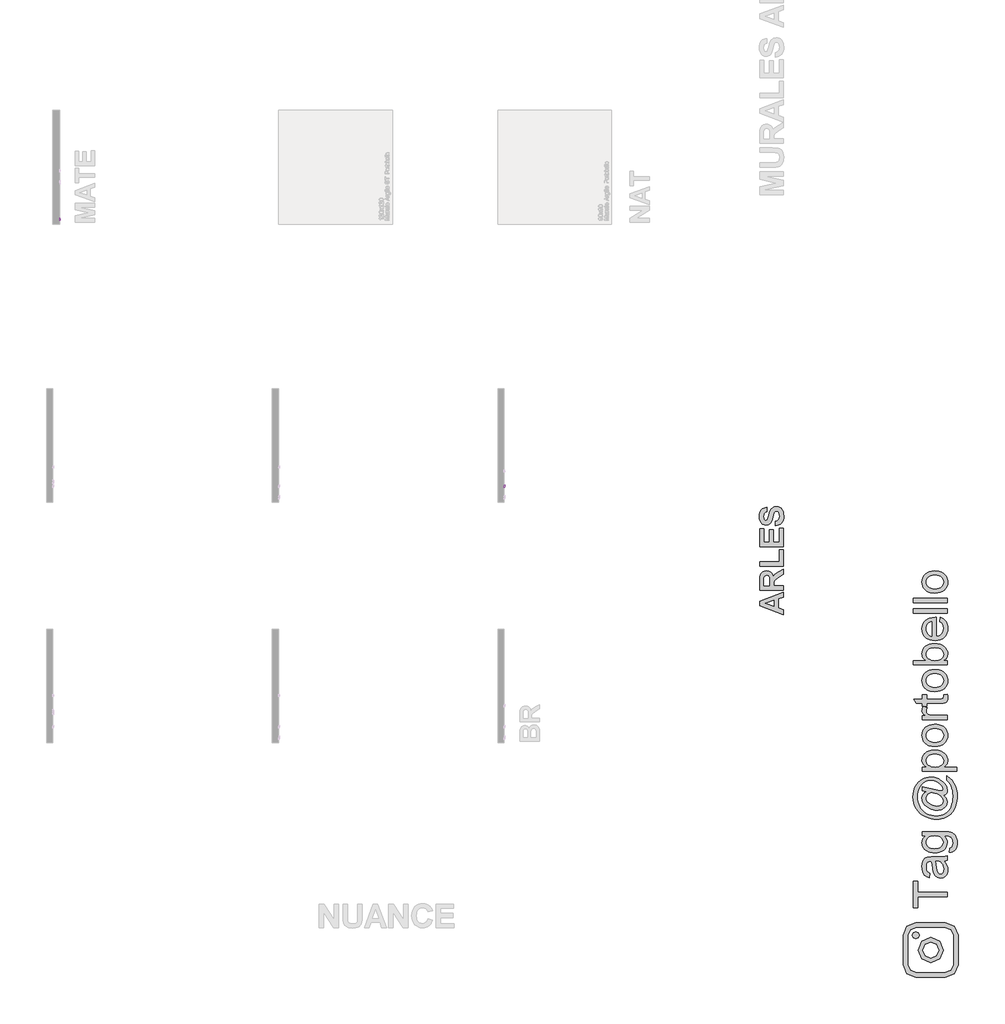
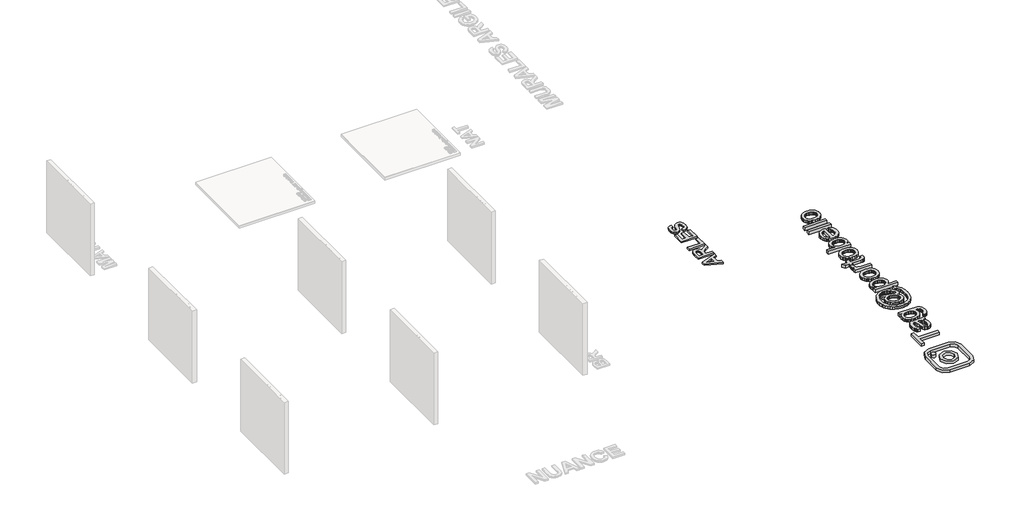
# One storey, part 5 of 21: 6 proxies.
"""IFC4 building model written with IfcOpenShell, lengths in millimetres."""

from ifc_helpers import new_model, si_unit, frame, origin, origin_with_axes, place, context, project, spatial, polyline, outline, extrude, transform, mapped, element, save
from components import generic_models_d67f6705

model = new_model("IFC4")

# Units and contexts
model_context = context("Model", 3, world=origin())
ifc_project = project(units=[si_unit("LENGTHUNIT", "METRE", prefix="MILLI")], contexts=[model_context])

# Site, building, storey
site = spatial("IfcSite", under=ifc_project)
building = spatial("IfcBuilding", under=site)
storey = spatial("IfcBuildingStorey", under=building, Name="PORTOBELLO - SHOWROOM", Elevation=0.0)

# Proxies
placement = place(None, origin())
generic_models_shape = generic_models_d67f6705(model_context)
element("IfcBuildingElementProxy", 1, Name="Blks_Instagram1 : Único", ObjectType="Blks_Instagram1 : Único", at=placement, inside=storey, context=model_context, shape_type="MappedRepresentation", body=[
    mapped(generic_models_shape, transform((35999.5235049, -12631.2406298, 0.0), x_axis=(-1.0, 0.0, 0.0), y_axis=(0.0, -1.0, 0.0), z_axis=(0.0, 0.0, 1.0))),
])
element("IfcBuildingElementProxy", 2, Name="10mm Arial", ObjectType="10mm Arial", at=placement, inside=storey, context=model_context, shape_type="SweptSolid", body=[
    extrude(outline(polyline([(-1892.5977926, 2383.4745677), (-1905.1548314, 2383.4745677), (-1905.1548314, 2461.7598562), (-1917.0496826, 2453.2863076), (-1930.2689089, 2446.9464746), (-1930.2689089, 2458.8168003), (-1911.8625465, 2470.5644987), (-1900.6911965, 2483.9308778), (-1892.5977926, 2483.9308778), (-1892.5977926, 2383.4745677)])), frame((25885.0186832, 0.0, 0.0), z_axis=(1.0, 0.0, 0.0), x_axis=(0.0, 1.0, 0.0)), (0.0, 0.0, 1.0), 20.0),
    extrude(outline(polyline([(-1862.7748256, 2410.158275), (-1850.2177868, 2411.7279049), (-1843.8902165, 2398.7907214), (-1830.769092, 2394.4619766), (-1821.7682458, 2395.9672271), (-1815.0237426, 2400.4829786), (-1810.8114937, 2407.4880649), (-1809.4074108, 2416.4613199), (-1814.6681233, 2431.3728034), (-1821.2746708, 2435.4746877), (-1830.5728883, 2436.8419824), (-1841.5970854, 2434.6592159), (-1848.6481569, 2428.9938332), (-1861.2051957, 2430.563463), (-1850.2177868, 2482.361248), (-1801.5592616, 2482.361248), (-1801.5592616, 2469.8042092), (-1840.0642437, 2469.8042092), (-1845.4598463, 2442.1394832), (-1836.489657, 2447.5841367), (-1827.090272, 2449.3990212), (-1815.3548364, 2447.1488097), (-1805.6059635, 2440.3981751), (-1799.0392699, 2430.1097419), (-1796.850372, 2417.2461348), (-1798.8185407, 2404.6890961), (-1804.7230467, 2393.9469418), (-1816.0292867, 2384.9154388), (-1830.8181429, 2381.9049378), (-1843.1513868, 2383.839384), (-1852.9769018, 2389.6427224), (-1859.712208, 2398.6405029), (-1862.7748256, 2410.158275)])), frame((25885.0186832, 0.0, 0.0), z_axis=(1.0, 0.0, 0.0), x_axis=(0.0, 1.0, 0.0)), (0.0, 0.0, 1.0), 20.0),
    extrude(outline(polyline([(-1779.5844437, 2383.4745677), (-1779.5844437, 2396.0316064), (-1767.027405, 2396.0316064), (-1767.027405, 2383.4745677), (-1769.2837479, 2370.635486), (-1776.445184, 2363.0693797), (-1779.5844437, 2367.7782692), (-1774.973656, 2373.1983973), (-1773.3304498, 2383.4745677), (-1779.5844437, 2383.4745677)])), frame((25885.0186832, 0.0, 0.0), z_axis=(1.0, 0.0, 0.0), x_axis=(0.0, 1.0, 0.0)), (0.0, 0.0, 1.0), 20.0),
    extrude(outline(polyline([(-1746.622217, 2410.158275), (-1734.0651782, 2411.7279049), (-1727.7376079, 2398.7907214), (-1714.6164834, 2394.4619766), (-1705.6156372, 2395.9672271), (-1698.871134, 2400.4829786), (-1694.6588851, 2407.4880649), (-1693.2548022, 2416.4613199), (-1698.5155147, 2431.3728034), (-1705.1220622, 2435.4746877), (-1714.4202796, 2436.8419824), (-1725.4444768, 2434.6592159), (-1732.4955483, 2428.9938332), (-1745.0525871, 2430.563463), (-1734.0651782, 2482.361248), (-1685.406653, 2482.361248), (-1685.406653, 2469.8042092), (-1723.9116351, 2469.8042092), (-1729.3072377, 2442.1394832), (-1720.3370484, 2447.5841367), (-1710.9376634, 2449.3990212), (-1699.2022278, 2447.1488097), (-1689.4533549, 2440.3981751), (-1682.8866613, 2430.1097419), (-1680.6977634, 2417.2461348), (-1682.6659321, 2404.6890961), (-1688.5704381, 2393.9469418), (-1699.8766781, 2384.9154388), (-1714.6655343, 2381.9049378), (-1726.9987782, 2383.839384), (-1736.8242931, 2389.6427224), (-1743.5595993, 2398.6405029), (-1746.622217, 2410.158275)])), frame((25885.0186832, 0.0, 0.0), z_axis=(1.0, 0.0, 0.0), x_axis=(0.0, 1.0, 0.0)), (0.0, 0.0, 1.0), 20.0),
    extrude(outline(polyline([(-1674.419244, 2383.4745677), (-1647.5883839, 2420.5815982), (-1672.8496142, 2457.2471704), (-1657.7909779, 2457.2471704), (-1645.6018211, 2439.5643092), (-1639.8873874, 2431.2501761), (-1634.9332432, 2438.0682557), (-1621.0518293, 2457.2471704), (-1605.944142, 2457.2471704), (-1632.4806966, 2420.5570728), (-1606.9251607, 2383.4745677), (-1622.0083225, 2383.4745677), (-1637.4103153, 2405.792742), (-1640.2062185, 2409.8884949), (-1659.3115568, 2383.4745677), (-1674.419244, 2383.4745677)])), frame((25885.0186832, 0.0, 0.0), z_axis=(1.0, 0.0, 0.0), x_axis=(0.0, 1.0, 0.0)), (0.0, 0.0, 1.0), 20.0),
    extrude(outline(polyline([(-1551.988116, 2383.4745677), (-1564.5451548, 2383.4745677), (-1564.5451548, 2461.7598562), (-1576.440006, 2453.2863076), (-1589.6592323, 2446.9464746), (-1589.6592323, 2458.8168003), (-1571.2528699, 2470.5644987), (-1560.0815199, 2483.9308778), (-1551.988116, 2483.9308778), (-1551.988116, 2383.4745677)])), frame((25885.0186832, 0.0, 0.0), z_axis=(1.0, 0.0, 0.0), x_axis=(0.0, 1.0, 0.0)), (0.0, 0.0, 1.0), 20.0),
    extrude(outline(polyline([(-1522.165149, 2410.158275), (-1509.6081102, 2411.7279049), (-1503.2805399, 2398.7907214), (-1490.1594154, 2394.4619766), (-1481.1585692, 2395.9672271), (-1474.414066, 2400.4829786), (-1470.2018171, 2407.4880649), (-1468.7977342, 2416.4613199), (-1474.0584467, 2431.3728034), (-1480.6649942, 2435.4746877), (-1489.9632117, 2436.8419824), (-1500.9874088, 2434.6592159), (-1508.0384803, 2428.9938332), (-1520.5955191, 2430.563463), (-1509.6081102, 2482.361248), (-1460.949585, 2482.361248), (-1460.949585, 2469.8042092), (-1499.4545671, 2469.8042092), (-1504.8501697, 2442.1394832), (-1495.8799804, 2447.5841367), (-1486.4805954, 2449.3990212), (-1474.7451598, 2447.1488097), (-1464.9962869, 2440.3981751), (-1458.4295933, 2430.1097419), (-1456.2406954, 2417.2461348), (-1458.2088641, 2404.6890961), (-1464.1133701, 2393.9469418), (-1475.4196101, 2384.9154388), (-1490.2084663, 2381.9049378), (-1502.5417102, 2383.839384), (-1512.3672252, 2389.6427224), (-1519.1025314, 2398.6405029), (-1522.165149, 2410.158275)])), frame((25885.0186832, 0.0, 0.0), z_axis=(1.0, 0.0, 0.0), x_axis=(0.0, 1.0, 0.0)), (0.0, 0.0, 1.0), 20.0),
    extrude(outline(polyline([(-1438.9747671, 2383.4745677), (-1438.9747671, 2396.0316064), (-1426.4177284, 2396.0316064), (-1426.4177284, 2383.4745677), (-1428.6740713, 2370.635486), (-1435.8355074, 2363.0693797), (-1438.9747671, 2367.7782692), (-1434.3639794, 2373.1983973), (-1432.7207732, 2383.4745677), (-1438.9747671, 2383.4745677)])), frame((25885.0186832, 0.0, 0.0), z_axis=(1.0, 0.0, 0.0), x_axis=(0.0, 1.0, 0.0)), (0.0, 0.0, 1.0), 20.0),
    extrude(outline(polyline([(-1406.0125404, 2410.158275), (-1393.4555016, 2411.7279049), (-1387.1279313, 2398.7907214), (-1374.0068068, 2394.4619766), (-1365.0059606, 2395.9672271), (-1358.2614574, 2400.4829786), (-1354.0492085, 2407.4880649), (-1352.6451256, 2416.4613199), (-1357.9058381, 2431.3728034), (-1364.5123856, 2435.4746877), (-1373.810603, 2436.8419824), (-1384.8348002, 2434.6592159), (-1391.8858717, 2428.9938332), (-1404.4429105, 2430.563463), (-1393.4555016, 2482.361248), (-1344.7969764, 2482.361248), (-1344.7969764, 2469.8042092), (-1383.3019585, 2469.8042092), (-1388.6975611, 2442.1394832), (-1379.7273718, 2447.5841367), (-1370.3279868, 2449.3990212), (-1358.5925512, 2447.1488097), (-1348.8436783, 2440.3981751), (-1342.2769847, 2430.1097419), (-1340.0880868, 2417.2461348), (-1342.0562555, 2404.6890961), (-1347.9607615, 2393.9469418), (-1359.2670015, 2384.9154388), (-1374.0558577, 2381.9049378), (-1386.3891016, 2383.839384), (-1396.2146165, 2389.6427224), (-1402.9499227, 2398.6405029), (-1406.0125404, 2410.158275)])), frame((25885.0186832, 0.0, 0.0), z_axis=(1.0, 0.0, 0.0), x_axis=(0.0, 1.0, 0.0)), (0.0, 0.0, 1.0), 20.0),
])
element("IfcBuildingElementProxy", 3, Name="10mm Arial", ObjectType="10mm Arial", at=placement, inside=storey, context=model_context, shape_type="SweptSolid", body=[
    extrude(outline(polyline([(4701.123688, 2383.4745677), (4701.123688, 2407.0190154), (4655.6044224, 2407.0190154), (4655.6044224, 2419.5760541), (4704.2629477, 2482.361248), (4713.6807267, 2482.361248), (4713.6807267, 2419.5760541), (4726.2377655, 2419.5760541), (4726.2377655, 2407.0190154), (4713.6807267, 2407.0190154), (4713.6807267, 2383.4745677), (4701.123688, 2383.4745677)]), holes=[polyline([(4701.123688, 2419.5760541), (4701.123688, 2458.3753419), (4671.0554662, 2419.5760541), (4701.123688, 2419.5760541)])]), frame((15340.268651, 0.0, 0.0), z_axis=(1.0, 0.0, 0.0), x_axis=(0.0, 1.0, 0.0)), (0.0, 0.0, 1.0), 20.0),
    extrude(outline(polyline([(4737.2251744, 2410.158275), (4749.7822132, 2411.7279049), (4756.1097835, 2398.7907214), (4769.230908, 2394.4619766), (4778.2317542, 2395.9672271), (4784.9762574, 2400.4829786), (4789.1885063, 2407.4880649), (4790.5925892, 2416.4613199), (4785.3318767, 2431.3728034), (4778.7253292, 2435.4746877), (4769.4271117, 2436.8419824), (4758.4029146, 2434.6592159), (4751.3518431, 2428.9938332), (4738.7948043, 2430.563463), (4749.7822132, 2482.361248), (4798.4407384, 2482.361248), (4798.4407384, 2469.8042092), (4759.9357563, 2469.8042092), (4754.5401537, 2442.1394832), (4763.510343, 2447.5841367), (4772.909728, 2449.3990212), (4784.6451636, 2447.1488097), (4794.3940365, 2440.3981751), (4800.9607301, 2430.1097419), (4803.149628, 2417.2461348), (4801.1814593, 2404.6890961), (4795.2769533, 2393.9469418), (4783.9707133, 2384.9154388), (4769.1818571, 2381.9049378), (4756.8486132, 2383.839384), (4747.0230982, 2389.6427224), (4740.287792, 2398.6405029), (4737.2251744, 2410.158275)])), frame((15340.268651, 0.0, 0.0), z_axis=(1.0, 0.0, 0.0), x_axis=(0.0, 1.0, 0.0)), (0.0, 0.0, 1.0), 20.0),
    extrude(outline(polyline([(4809.4281474, 2383.4745677), (4836.2590075, 2420.5815982), (4810.9977772, 2457.2471704), (4826.0564135, 2457.2471704), (4838.2455703, 2439.5643092), (4843.960004, 2431.2501761), (4848.9141482, 2438.0682557), (4862.7955621, 2457.2471704), (4877.9032494, 2457.2471704), (4851.3666948, 2420.5570728), (4876.9222307, 2383.4745677), (4861.8390689, 2383.4745677), (4846.4370761, 2405.792742), (4843.6411729, 2409.8884949), (4824.5358346, 2383.4745677), (4809.4281474, 2383.4745677)])), frame((15340.268651, 0.0, 0.0), z_axis=(1.0, 0.0, 0.0), x_axis=(0.0, 1.0, 0.0)), (0.0, 0.0, 1.0), 20.0),
    extrude(outline(polyline([(4931.8592754, 2383.4745677), (4919.3022366, 2383.4745677), (4919.3022366, 2461.7598562), (4907.4073854, 2453.2863076), (4894.188159, 2446.9464746), (4894.188159, 2458.8168003), (4912.5945215, 2470.5644987), (4923.7658715, 2483.9308778), (4931.8592754, 2483.9308778), (4931.8592754, 2383.4745677)])), frame((15340.268651, 0.0, 0.0), z_axis=(1.0, 0.0, 0.0), x_axis=(0.0, 1.0, 0.0)), (0.0, 0.0, 1.0), 20.0),
    extrude(outline(polyline([(5026.0370661, 2396.0316064), (5026.0370661, 2383.4745677), (4960.1126126, 2383.4745677), (4961.4615132, 2392.1320573), (4969.101196, 2405.4616482), (4984.8342827, 2420.0175125), (5006.5025322, 2440.9377353), (5011.9103975, 2455.1625058), (5006.7968378, 2466.6772122), (4993.4427213, 2471.373839), (4979.5245192, 2466.7875768), (4974.2392812, 2454.1079107), (4961.6822424, 2455.6775406), (4964.7264659, 2467.8237778), (4971.308488, 2476.6958652), (4981.084952, 2482.1221247), (4993.7125015, 2483.9308778), (5006.4320215, 2481.9197896), (5016.1900914, 2475.8865249), (5022.3981, 2466.873416), (5024.4674363, 2455.9227952), (5022.2356188, 2444.0156813), (5014.8166653, 2431.7038972), (4996.8272357, 2414.4992826), (4982.381736, 2402.4204904), (4976.7163533, 2396.0316064), (5026.0370661, 2396.0316064)])), frame((15340.268651, 0.0, 0.0), z_axis=(1.0, 0.0, 0.0), x_axis=(0.0, 1.0, 0.0)), (0.0, 0.0, 1.0), 20.0),
    extrude(outline(polyline([(5038.5941049, 2432.8933823), (5042.2851876, 2461.7966444), (5053.248071, 2478.4616988), (5071.5563317, 2483.9308778), (5086.2225605, 2480.6935163), (5096.3515781, 2471.3615763), (5102.2376901, 2456.4991437), (5104.5185584, 2432.8933823), (5100.8642639, 2404.1127476), (5089.9381687, 2387.410905), (5081.706809, 2383.2814296), (5071.5563317, 2381.9049378), (5058.5087836, 2384.2961708), (5048.6004952, 2391.4698697), (5041.0957025, 2408.4598865), (5038.5941049, 2432.8933823)]), holes=[polyline([(5051.1511437, 2432.9179078), (5052.6226716, 2413.1657104), (5057.0372556, 2401.7337774), (5063.6100806, 2396.2799268), (5071.5563317, 2394.4619766), (5079.5025827, 2396.2860581), (5086.0754077, 2401.7583028), (5090.4899917, 2413.1963672), (5091.9615197, 2432.9179078), (5090.5390426, 2452.2255812), (5086.2716115, 2463.746419), (5079.7110492, 2469.466984), (5071.4091789, 2471.373839), (5063.5487669, 2469.6938446), (5057.2334593, 2464.6538613), (5052.6717226, 2452.4156536), (5051.1511437, 2432.9179078)])]), frame((15340.268651, 0.0, 0.0), z_axis=(1.0, 0.0, 0.0), x_axis=(0.0, 1.0, 0.0)), (0.0, 0.0, 1.0), 20.0),
])
element("IfcBuildingElementProxy", 4, Name="550mm Arial", ObjectType="550mm Arial", at=placement, inside=storey, context=model_context, shape_type="SweptSolid", body=[
    extrude(outline(polyline([(32506.24187, -4154.5336122), (32506.24187, -4266.8456495), (32381.5434989, -4310.8240929), (32381.5434989, -4522.644317), (32506.24187, -4566.0660713), (32506.24187, -4680.0481761), (31945.0992, -4475.464911), (31945.0992, -4361.3436339), (32506.24187, -4154.5336122)]), holes=[polyline([(32283.5662073, -4345.0604761), (32078.7045976, -4417.2908941), (32283.5662073, -4488.5471062), (32283.5662073, -4345.0604761)])]), origin_with_axes(), (0.0, 0.0, 1.0), 50.0),
    extrude(outline(polyline([(32506.24187, -4101.0914531), (31945.0992, -4101.0914531), (31945.0992, -3865.0552507), (31948.8916449, -3788.1625609), (31960.2689795, -3735.6250217), (31969.3325748, -3716.4540389), (31981.3535813, -3699.3010543), (31996.3319989, -3684.1660678), (32014.2678277, -3671.0490796), (32034.3869218, -3660.454589), (32055.9151352, -3652.8870958), (32078.8524682, -3648.3465999), (32103.1989205, -3646.8331012), (32133.5471778, -3649.0207157), (32161.1293859, -3655.5835589), (32185.9455447, -3666.521631), (32207.9956542, -3681.834932), (32226.7491202, -3701.5060652), (32241.6753482, -3725.5176342), (32252.7743383, -3753.869639), (32260.0460904, -3786.5620796), (32282.3832428, -3755.5614522), (32306.8079796, -3730.475647), (32342.1925341, -3704.5200151), (32397.4091398, -3670.9099073), (32506.24187, -3602.2979687), (32506.24187, -3727.1355121), (32378.0641916, -3808.412129), (32302.0065356, -3872.2226236), (32288.8025647, -3889.9322974), (32280.5044169, -3908.6857633), (32276.1204898, -3933.5802066), (32274.6591808, -3969.7128121), (32274.6591808, -3994.207135), (32506.24187, -3994.207135), (32506.24187, -4101.0914531)]), holes=[polyline([(32176.6818892, -3994.207135), (32176.6818892, -3906.111076), (32175.0640113, -3836.577121), (32170.2103777, -3799.1571717), (32161.4077304, -3780.1253612), (32147.9428115, -3765.7558223), (32130.1809481, -3756.7270201), (32108.4874675, -3753.7174193), (32084.4628511, -3757.6838296), (32065.5528163, -3769.5830603), (32052.209673, -3788.7192501), (32044.8857313, -3814.3965374), (32043.0764916, -3901.2400459), (32043.0764916, -3994.207135), (32176.6818892, -3994.207135)])]), origin_with_axes(), (0.0, 0.0, 1.0), 50.0),
    extrude(outline(polyline([(32506.24187, -3539.9487831), (31945.0992, -3539.9487831), (31945.0992, -3433.0644651), (32408.2645784, -3433.0644651), (32408.2645784, -3148.0396168), (32506.24187, -3148.0396168), (32506.24187, -3539.9487831)])), origin_with_axes(), (0.0, 0.0, 1.0), 50.0),
    extrude(outline(polyline([(32506.24187, -3067.8763782), (31945.0992, -3067.8763782), (31945.0992, -2649.2461324), (32043.0764916, -2649.2461324), (32043.0764916, -2960.9920602), (32167.7748627, -2960.9920602), (32167.7748627, -2667.0601854), (32265.7521543, -2667.0601854), (32265.7521543, -2960.9920602), (32408.2645784, -2960.9920602), (32408.2645784, -2640.3391059), (32506.24187, -2640.3391059), (32506.24187, -3067.8763782)])), origin_with_axes(), (0.0, 0.0, 1.0), 50.0),
    extrude(outline(polyline([(32319.1943133, -2577.9899203), (32310.2872868, -2471.1056022), (32336.0167638, -2464.6340908), (32358.0929681, -2455.5183058), (32376.5158999, -2443.7582474), (32391.2855591, -2429.3539155), (32402.6107041, -2412.2618187), (32410.7000934, -2392.4384658), (32415.553727, -2369.8838567), (32417.1716049, -2344.5979914), (32415.7407398, -2318.0247824), (32411.4481445, -2294.9482772), (32404.293819, -2275.3684758), (32394.2777633, -2259.2853781), (32382.3480887, -2246.7424755), (32369.4529062, -2237.7832594), (32355.5922161, -2232.4077298), (32340.7660181, -2230.6158865), (32322.5866379, -2233.5906942), (32307.2950826, -2242.5151173), (32294.3694562, -2258.8852578), (32283.2878627, -2284.1972179), (32259.4894012, -2376.8859625), (32247.8772134, -2419.9075964), (32234.8906991, -2456.0054089), (32220.5298585, -2485.1794), (32204.7946916, -2507.4295697), (32180.4308427, -2530.5060749), (32153.5444961, -2546.9892929), (32124.1356517, -2556.8792237), (32092.2043096, -2560.1758673), (32050.8701398, -2554.1218727), (32012.3194157, -2535.959889), (31994.8445951, -2522.5123666), (31979.5791346, -2506.3857775), (31966.5230343, -2487.580122), (31955.676294, -2466.0953998), (31941.0632036, -2415.7498242), (31936.1921735, -2356.0101191), (31939.227869, -2306.590909), (31948.3349557, -2263.6867017), (31963.5134335, -2227.2974973), (31984.7633024, -2197.4232956), (32011.0755633, -2173.9684157), (32041.4412172, -2156.8371767), (32075.8602639, -2146.0295786), (32114.3327036, -2141.5456215), (32114.3327036, -2248.4299395), (32077.6086158, -2260.2421876), (32063.7479256, -2269.3710199), (32052.888138, -2280.6483245), (32044.6987186, -2294.5438077), (32038.8491333, -2311.5271762), (32034.1694651, -2354.7575685), (32039.1448744, -2400.266907), (32045.3641361, -2418.8464076), (32054.0711024, -2434.6424625), (32069.0321235, -2448.6292775), (32088.3074856, -2453.2915492), (32106.5042624, -2449.0467944), (32121.8480072, -2436.3125299), (32130.7593829, -2421.6776939), (32139.8186291, -2399.3448906), (32158.3807332, -2331.5853823), (32177.6908883, -2259.2679816), (32197.9056633, -2208.6266648), (32222.3825896, -2173.1377311), (32254.4791988, -2146.2774793), (32273.4849146, -2136.4136433), (32294.5956112, -2129.3680462), (32343.131947, -2123.7315684), (32366.686857, -2125.3972868), (32389.4763193, -2130.3944418), (32411.5003341, -2138.7230335), (32432.7589013, -2150.3830618), (32452.2952114, -2165.0918331), (32469.1524549, -2182.5666537), (32483.3306319, -2202.8075235), (32494.8297422, -2225.8144426), (32503.7193722, -2251.7048375), (32510.0691079, -2280.5961349), (32515.1488965, -2347.3814372), (32512.0218691, -2397.3268924), (32502.640787, -2441.1139739), (32487.0056501, -2478.7426816), (32465.1164585, -2510.2130155), (32437.2341602, -2535.7424323), (32403.6197032, -2555.5483887), (32364.2730876, -2569.6308847), (32319.1943133, -2577.9899203)])), origin_with_axes(), (0.0, 0.0, 1.0), 50.0),
])
element("IfcBuildingElementProxy", 5, Name="80mm Arial", ObjectType="80mm Arial", at=placement, inside=storey, context=model_context, shape_type="SweptSolid", body=[
    extrude(outline(polyline([(36391.2364896, -11363.1133966), (35691.7713786, -11363.1133966), (35691.7713786, -11625.4128133), (35591.8477913, -11625.4128133), (35591.8477913, -11000.8903927), (35691.7713786, -11000.8903927), (35691.7713786, -11263.1898093), (36391.2364896, -11263.1898093), (36391.2364896, -11363.1133966)])), origin_with_axes(), (0.0, 0.0, 1.0), 100.0),
    extrude(outline(polyline([(36316.2937991, -10526.2533531), (36357.2292922, -10573.9951647), (36372.3910377, -10598.3966706), (36384.0154491, -10623.1519099), (36398.7990658, -10674.8457774), (36403.726938, -10730.198956), (36400.7628961, -10774.6900796), (36391.8707702, -10813.7044344), (36377.0505604, -10847.2420202), (36356.3022667, -10875.3028372), (36330.9432411, -10897.4599656), (36302.2908355, -10913.286486), (36270.3450499, -10922.7823982), (36235.1058845, -10925.9477022), (36193.6824833, -10921.1662025), (36156.0647656, -10906.8217031), (36123.8628283, -10884.6950689), (36098.6867682, -10856.5671646), (36079.6583507, -10823.511388), (36065.8993411, -10786.6011371), (36050.8717704, -10700.1438145), (36035.0635466, -10597.9758498), (36016.5230373, -10526.8388428), (35994.274426, -10526.2533531), (35970.0497868, -10527.9732293), (35949.6796219, -10533.1328579), (35933.1639313, -10541.7322388), (35920.5027151, -10553.7713722), (35907.8658942, -10574.5806544), (35898.8395936, -10599.9274824), (35893.4238133, -10629.811856), (35891.6185531, -10664.2337754), (35896.4244483, -10723.7585686), (35902.4318173, -10746.7878328), (35910.8421339, -10765.3283422), (35922.3140741, -10780.5632739), (35937.5063138, -10793.6758052), (35956.4188531, -10804.6659361), (35979.051692, -10813.5336665), (35966.5612436, -10913.4572538), (35911.9155318, -10896.1121194), (35888.9838492, -10884.237655), (35868.9796154, -10870.2285925), (35851.5003062, -10853.4811456), (35836.1433975, -10833.3915279), (35822.9088892, -10809.9597394), (35811.7967813, -10783.1857802), (35796.7204197, -10721.7825406), (35791.6949658, -10651.3530004), (35796.1349299, -10583.8021183), (35809.4548222, -10530.2541998), (35829.4834514, -10489.8798011), (35854.0496263, -10461.8494784), (35884.4219081, -10443.2601783), (35921.8688579, -10431.2088472), (35956.4127543, -10427.5495361), (36009.3019968, -10426.3297658), (36133.6209911, -10426.3297658), (36241.912203, -10425.0612046), (36307.2187077, -10421.2555211), (36350.1302287, -10413.7417357), (36391.2364896, -10401.3488689), (36391.2364896, -10501.2724562), (36356.49743, -10517.2758433), (36316.2937991, -10526.2533531)]), holes=[polyline([(36116.4466245, -10526.2533531), (36133.0842922, -10593.3895133), (36147.0872558, -10687.4582029), (36154.7474136, -10739.2984429), (36163.2858061, -10773.4276173), (36174.3613209, -10795.7982056), (36189.6328457, -10812.362687), (36207.929401, -10822.608758), (36228.0800072, -10826.0241149), (36243.6076838, -10824.1639652), (36257.793613, -10818.5835158), (36270.6377948, -10809.2827669), (36282.1402293, -10796.2617183), (36291.6178449, -10779.6423473), (36298.3875704, -10759.5466307), (36303.8033507, -10708.9261611), (36297.826476, -10655.2562656), (36290.3553826, -10630.7632769), (36279.8958518, -10607.8315943), (36253.475626, -10569.3844327), (36222.0299463, -10542.6470666), (36189.6328457, -10530.7908988), (36144.7452967, -10526.8388428), (36116.4466245, -10526.2533531)])]), origin_with_axes(), (0.0, 0.0, 1.0), 100.0),
    extrude(outline(polyline([(36441.1982832, -10313.9157301), (36453.6887317, -10213.9921428), (36470.5215625, -10209.7717374), (36484.9148527, -10202.9654188), (36496.8686021, -10193.5731871), (36506.3828109, -10181.5950422), (36516.1165783, -10162.2128913), (36523.0692693, -10139.5861513), (36528.6314221, -10084.5989038), (36527.0579184, -10053.3971781), (36522.3374071, -10025.9523452), (36514.4698883, -10002.264405), (36503.455362, -9982.3333574), (36489.5987708, -9965.7444806), (36473.2050573, -9952.0830526), (36454.2742214, -9941.3490735), (36432.8062632, -9933.5425433), (36389.821556, -9928.1267629), (36316.2937991, -9926.7118293), (36349.0812262, -9959.9627691), (36372.500817, -9997.0681832), (36386.5525714, -10038.0280717), (36391.2364896, -10082.8424345), (36385.7841161, -10137.6284198), (36369.4269957, -10185.8642384), (36357.1591554, -10207.5258352), (36342.1651283, -10227.5498902), (36303.998514, -10262.6853753), (36258.2083349, -10290.5632267), (36208.0757734, -10310.4759777), (36153.6008295, -10322.4236283), (36094.7835031, -10326.4061785), (36053.6345502, -10324.6192149), (36014.107892, -10319.2583242), (35976.2035282, -10310.3235064), (35939.9214591, -10297.8147614), (35906.4692572, -10281.9211537), (35877.0544951, -10262.8317477), (35851.6771729, -10240.5465434), (35830.3372906, -10215.0655407), (35813.4312735, -10186.7973628), (35801.355547, -10156.1506326), (35794.1101111, -10123.1253503), (35791.6949658, -10087.7215159), (35797.159537, -10040.9921136), (35813.5532506, -9998.5806985), (35840.8761065, -9960.4872704), (35879.1281047, -9926.7118293), (35804.1854143, -9926.7118293), (35804.1854143, -9826.788242), (36311.0243912, -9826.788242), (36374.5317346, -9828.4959205), (36428.0491588, -9833.618956), (36471.5766639, -9842.1573485), (36505.1142497, -9854.1110979), (36532.1626573, -9869.7668504), (36556.2226275, -9889.4112519), (36577.2941603, -9913.0443025), (36595.3772558, -9940.6660021), (36609.892523, -9971.9958036), (36620.260571, -10006.7531598), (36626.4813998, -10044.9380707), (36628.5550094, -10086.5505363), (36625.6336594, -10135.5060194), (36616.8696094, -10179.5214326), (36602.2628595, -10218.5967759), (36581.8134095, -10252.7320492), (36555.4968641, -10280.304958), (36523.288828, -10299.6932078), (36485.189301, -10310.8967984), (36441.1982832, -10313.9157301)]), holes=[polyline([(36087.9527891, -10226.4825912), (36137.3595872, -10223.817393), (36179.6063334, -10215.8217983), (36214.6930276, -10202.4958072), (36242.6196698, -10183.8394197), (36263.922959, -10161.1577899), (36279.1395942, -10135.7560724), (36288.2695753, -10107.6342669), (36291.3129023, -10076.7923735), (36288.2878718, -10046.2554227), (36279.2127804, -10018.267792), (36264.087628, -9992.8294813), (36242.9124147, -9969.9404906), (36215.2602208, -9951.0279513), (36180.7041267, -9937.5189946), (36139.2441324, -9929.4136206), (36090.880238, -9926.7118293), (36044.5350634, -9929.4929057), (36004.2521475, -9937.8361349), (35970.0314903, -9951.7415169), (35941.8730917, -9971.2090518), (35919.8867311, -9994.5920494), (35904.1821878, -10020.24382), (35894.7594618, -10048.1643633), (35891.6185531, -10078.3536796), (35894.710671, -10108.0367911), (35903.9870245, -10135.4145367), (35919.4476137, -10160.4869163), (35941.0924386, -10183.2539299), (35968.8239176, -10202.1664692), (36002.544469, -10215.6754259), (36042.2540928, -10223.7807999), (36087.9527891, -10226.4825912)])]), origin_with_axes(), (0.0, 0.0, 1.0), 100.0),
])
element("IfcBuildingElementProxy", 6, Name="80mm Arial", ObjectType="80mm Arial", at=placement, inside=storey, context=model_context, shape_type="SweptSolid", body=[
    extrude(outline(polyline([(36299.7049223, -8955.7052888), (36337.0054997, -8992.9570753), (36366.1580111, -9034.4536627), (36384.96687, -9078.1458368), (36391.2364896, -9121.9843833), (36389.4434272, -9145.9162776), (36384.0642399, -9169.5066362), (36375.0989278, -9192.7554591), (36362.5474909, -9215.6627463), (36346.2757544, -9237.3319667), (36326.1495436, -9256.8665889), (36302.1688584, -9274.2666129), (36274.333699, -9289.5320389), (36243.8394402, -9301.9553999), (36211.8814569, -9310.8292293), (36178.4597493, -9316.1535268), (36143.5743172, -9317.9282927), (36099.7357707, -9315.1777106), (36055.8484334, -9306.9259641), (36011.9123053, -9293.1730534), (35967.9273864, -9273.9189784), (35926.6625554, -9250.5725738), (35890.8866909, -9224.5426745), (35860.5997931, -9195.8292804), (35835.8018618, -9164.4323915), (35816.5050948, -9131.9316105), (35802.7216898, -9099.9065399), (35794.4516468, -9068.3571797), (35791.6949658, -9037.28353), (35793.2623707, -9014.120091), (35797.9645855, -8991.4689555), (35816.7734443, -8947.7035953), (35830.9532746, -8927.0772786), (35848.4142872, -8907.9390818), (35893.1798592, -8874.1270476), (35804.1854143, -8855.7817015), (35804.1854143, -8755.8581142), (36170.7020098, -8838.6073349), (36255.2076999, -8855.7817015), (36268.9911049, -8852.9762297), (36280.6765048, -8844.5598142), (36288.6538029, -8832.1913429), (36291.3129023, -8817.5297032), (36289.3368743, -8801.8556542), (36283.4087904, -8783.9128323), (36259.6964548, -8741.22087), (36237.3319653, -8711.6231423), (36211.4179442, -8685.2822016), (36181.9543913, -8662.1980477), (36148.9413067, -8642.3706806), (36113.879008, -8626.4465786), (36078.2678125, -8615.0722201), (36042.1077204, -8608.247605), (36005.3987316, -8605.9727332), (35962.9751188, -8608.9001821), (35921.9664395, -8617.6825286), (35882.3726939, -8632.3197729), (35844.1938818, -8652.8119148), (35808.5948841, -8679.1162624), (35776.7405813, -8711.1901239), (35748.6309735, -8749.0334991), (35724.2660607, -8792.646388), (35704.5850661, -8840.3577054), (35690.5272128, -8890.4963657), (35682.0925008, -8943.0623691), (35679.2809301, -8998.0557154), (35682.8487584, -9060.7885047), (35693.5522433, -9120.7646129), (35711.3913847, -9177.9840401), (35736.3661826, -9232.4467864), (35768.0009267, -9282.5427548), (35805.8199065, -9326.6618484), (35849.823122, -9364.8040674), (35900.0105732, -9396.9694116), (35954.241563, -9422.499205), (36010.3753947, -9440.7347718), (36068.4120681, -9451.6761119), (36128.3515832, -9455.3232252), (36190.0414688, -9451.712705), (36247.2791926, -9440.8811443), (36300.0647546, -9422.828543), (36348.3981548, -9397.5549013), (36391.4926414, -9365.4444468), (36428.5614624, -9326.8814071), (36459.6046179, -9281.8657822), (36484.6221078, -9230.3975722), (36503.8761828, -9174.2332463), (36517.6290935, -9115.1292739), (36525.88084, -9053.0856549), (36528.6314221, -8988.1023893), (36525.8991365, -8919.8562381), (36517.7022798, -8857.3917983), (36504.0408518, -8800.7090701), (36484.9148527, -8749.8080532), (36461.8855884, -8704.8107249), (36436.5143651, -8665.8390622), (36408.8011827, -8632.8930649), (36378.7460412, -8605.9727332), (36378.7460412, -8506.049146), (36408.0571228, -8522.2781905), (36437.6365538, -8543.447305), (36467.4843343, -8569.5564894), (36497.6004644, -8600.6057437), (36526.2711665, -8635.7168333), (36551.7826634, -8674.0115235), (36574.1349551, -8715.4898144), (36593.3280416, -8760.1517058), (36608.73984, -8808.7717521), (36619.7482675, -8862.1245073), (36626.3533239, -8920.2099715), (36628.5550094, -8983.0281447), (36626.6094757, -9041.8759653), (36620.7728746, -9098.3940246), (36611.045206, -9152.5823225), (36597.42647, -9204.4408591), (36579.9105678, -9253.2621675), (36558.4914004, -9298.3387808), (36533.1689678, -9339.6706992), (36503.9432702, -9377.2579227), (36471.5766639, -9410.7650143), (36436.8315054, -9439.8565372), (36399.7077947, -9464.5324914), (36360.2055318, -9484.792877), (36307.657825, -9504.6873314), (36253.060904, -9518.897656), (36196.4147689, -9527.4238508), (36137.7194195, -9530.2659157), (36071.9615998, -9526.8749541), (36007.7894815, -9516.7020694), (35945.2030647, -9499.7472615), (35884.2023494, -9476.0105304), (35814.6571427, -9439.5515946), (35753.7601079, -9396.1399677), (35701.5112448, -9345.7756499), (35657.9105536, -9288.458641), (35623.5435239, -9224.4328952), (35598.9956455, -9153.9423665), (35584.2669185, -9076.9870549), (35579.3573428, -8993.5669605), (35582.7970952, -8928.1384788), (35593.1163524, -8866.1253541), (35610.3151144, -8807.5275863), (35634.3933812, -8752.3451756), (35665.2901642, -8701.6881128), (35702.944475, -8656.6663891), (35747.3563135, -8617.2800044), (35798.5256798, -8583.5289588), (35846.4016662, -8560.560683), (35896.3512621, -8544.1547718), (35948.3744676, -8534.311225), (36002.4712828, -8531.0300428), (36041.2020409, -8532.7316224), (36078.8411046, -8537.8363613), (36115.3884738, -8546.3442596), (36150.8441485, -8558.2553171), (36185.2081288, -8573.5695338), (36218.4804145, -8592.2869099), (36250.6610059, -8614.4074452), (36281.7499027, -8639.9311399), (36329.6502845, -8689.7465611), (36363.8648429, -8741.8063597), (36375.8399383, -8768.6779006), (36384.3935779, -8796.1105358), (36389.5257617, -8824.1042654), (36391.2364896, -8852.6590894), (36388.3578316, -8885.9832154), (36379.7218575, -8912.1838826), (36365.7676846, -8931.8465807), (36346.9344304, -8945.5567994), (36328.1987578, -8951.6068604), (36299.7049223, -8955.7052888)]), holes=[polyline([(36145.1356232, -9218.0047054), (36177.8498641, -9215.8152176), (36206.7096306, -9209.2467543), (36231.7149229, -9198.2993154), (36252.8657408, -9182.9729009), (36269.686374, -9164.8166192), (36281.7011119, -9145.3795786), (36288.9099547, -9124.6617792), (36291.3129023, -9102.6632209), (36287.0681015, -9071.6078677), (36274.333699, -9038.9424176), (36253.2560673, -9006.2281768), (36223.9815788, -8975.0264512), (36186.1199071, -8947.3376642), (36139.2807255, -8925.1622391), (36087.8552075, -8910.5981811), (36036.2345262, -8905.7434951), (36003.8069313, -8908.0183668), (35975.2216131, -8914.842982), (35950.4785715, -8926.2173405), (35929.5778065, -8942.1414425), (35912.9706332, -8961.334529), (35901.1083665, -8982.5158411), (35893.9910065, -9005.685379), (35891.6185531, -9030.8431425), (35895.7413769, -9064.3624318), (35908.1098483, -9095.8325069), (35929.5778065, -9125.8144622), (35960.9990908, -9154.869392), (36001.3246987, -9180.6309418), (36049.5056276, -9200.7327572), (36099.4674212, -9213.6867184), (36145.1356232, -9218.0047054)])]), origin_with_axes(), (0.0, 0.0, 1.0), 100.0),
    extrude(outline(polyline([(36616.064561, -8393.6351103), (35804.1854143, -8393.6351103), (35804.1854143, -8293.711523), (35902.157369, -8293.711523), (35853.8300676, -8261.1192591), (35834.8443421, -8243.3594028), (35819.3105666, -8224.6237302), (35807.2287413, -8204.3755423), (35798.598866, -8182.0781403), (35793.4209409, -8157.731524), (35791.6949658, -8131.3356936), (35794.1101111, -8096.4868546), (35801.355547, -8063.7604161), (35813.4312735, -8033.1563779), (35830.3372906, -8004.6747402), (35851.634481, -7978.9375857), (35876.8837273, -7956.5669975), (35906.0850295, -7937.5629754), (35939.2383877, -7921.9255195), (35975.2094154, -7909.7156182), (36012.8637262, -7900.9942602), (36052.2013201, -7895.7614454), (36093.222197, -7894.0171738), (36137.0790401, -7895.9871029), (36178.6793079, -7901.8968903), (36218.0230007, -7911.7465359), (36255.1101182, -7925.5360397), (36288.9709432, -7943.0763374), (36318.6357582, -7964.1783645), (36344.1045632, -7988.842121), (36365.3773581, -8017.067607), (36382.1552993, -8047.470383), (36394.139543, -8078.6660098), (36401.3300893, -8110.6544873), (36403.726938, -8143.4358155), (36402.12294, -8167.0200753), (36397.310946, -8189.372367), (36389.2909559, -8210.4926906), (36378.0629698, -8230.3810462), (36349.00804, -8265.486037), (36313.171187, -8293.711523), (36616.064561, -8293.711523), (36616.064561, -8393.6351103)]), holes=[polyline([(36102.3948701, -8293.711523), (36150.5514036, -8291.0097316), (36191.9748048, -8282.9043576), (36226.6650736, -8269.395401), (36254.6222101, -8250.4828617), (36276.1389591, -8227.715848), (36291.5080656, -8202.6434684), (36300.7295294, -8175.2657229), (36303.8033507, -8145.5826113), (36300.6197501, -8115.4725802), (36291.0689482, -8087.5947288), (36275.1509451, -8061.9490571), (36252.8657408, -8038.5355652), (36223.8961949, -8019.0253384), (36187.9251672, -8005.0894621), (36144.9526577, -7996.7279363), (36094.9786663, -7993.9407611), (36047.2368547, -7996.660849), (36005.8866398, -8004.8211126), (35970.9280215, -8018.4215521), (35942.3609998, -8037.4621673), (35920.1611794, -8060.2840706), (35904.3041648, -8085.2283743), (35894.7899561, -8112.2950784), (35891.6185531, -8141.4841829), (35894.9912182, -8170.5818047), (35905.1092132, -8197.9595503), (35921.9725384, -8223.6174196), (35945.5811935, -8247.5554128), (35975.6180385, -8267.748711), (36011.7659329, -8282.1724954), (36054.0248767, -8290.8267661), (36102.3948701, -8293.711523)])]), origin_with_axes(), (0.0, 0.0, 1.0), 100.0),
    extrude(outline(polyline([(36097.7109519, -7806.5840349), (36021.6826658, -7801.1804522), (35987.6114305, -7794.4259739), (35956.1688002, -7784.9697043), (35927.354775, -7772.8116433), (35901.169355, -7757.9517909), (35877.6125401, -7740.3901473), (35856.6843302, -7720.1267123), (35828.2514833, -7682.0454819), (35807.9423069, -7640.0121955), (35795.7568011, -7594.0268532), (35791.6949658, -7544.089455), (35796.6411346, -7488.9619339), (35811.479641, -7439.1160185), (35836.2104849, -7394.5517086), (35870.8336663, -7355.2690044), (35914.1782058, -7323.2073407), (35965.0731238, -7300.3061523), (36023.5184202, -7286.5654393), (36089.5140952, -7281.9852016), (36143.0010251, -7284.0100204), (36190.4622895, -7290.0844768), (36231.8978884, -7300.2085707), (36267.3078218, -7314.3823022), (36297.8935634, -7332.4288046), (36324.856587, -7354.1712111), (36348.1968927, -7379.6095218), (36367.9144805, -7408.7437367), (36383.5824306, -7440.4394693), (36394.7738236, -7473.5623332), (36401.4886594, -7508.1123285), (36403.726938, -7544.089455), (36398.7990658, -7600.0220245), (36384.0154491, -7650.3314527), (36359.376088, -7695.0177396), (36324.8809824, -7734.0808851), (36281.1156222, -7765.8010132), (36228.665497, -7788.4582475), (36167.5306069, -7802.052588), (36097.7109519, -7806.5840349)]), holes=[polyline([(36097.5157887, -7706.6604476), (36145.9833636, -7703.7695919), (36187.9495626, -7695.0970247), (36223.4143856, -7680.642746), (36252.3778326, -7660.4067558), (36274.8764968, -7635.7917901), (36290.9469712, -7608.2005847), (36300.5892558, -7577.6331397), (36303.8033507, -7544.089455), (36300.5709593, -7510.7165382), (36290.873785, -7480.2710702), (36274.7118278, -7452.753051), (36252.0850878, -7428.1624807), (36222.8349947, -7407.9264905), (36186.8029785, -7393.4722119), (36143.9890391, -7384.7996446), (36094.3931766, -7381.9087889), (36047.4625122, -7384.8179412), (36006.5941066, -7393.5453981), (35971.7879596, -7408.0911595), (35943.0440712, -7428.4552256), (35920.545407, -7453.1372787), (35904.4749327, -7480.6370013), (35894.832648, -7510.9543934), (35891.6185531, -7544.089455), (35894.8204503, -7577.6331397), (35904.4261418, -7608.2005847), (35920.4356277, -7635.7917901), (35942.8489079, -7660.4067558), (35971.726971, -7680.642746), (36007.1308055, -7695.0970247), (36049.0604114, -7703.7695919), (36097.5157887, -7706.6604476)])]), origin_with_axes(), (0.0, 0.0, 1.0), 100.0),
    extrude(outline(polyline([(36391.2364896, -7169.5711659), (35804.1854143, -7169.5711659), (35804.1854143, -7082.138027), (35891.0330634, -7082.138027), (35840.6809432, -7049.8385081), (35823.2626226, -7034.6401695), (35811.0161282, -7020.0761115), (35796.5252564, -6990.2161333), (35791.6949658, -6957.6238694), (35793.622203, -6932.8381359), (35799.4039145, -6907.857239), (35809.0401003, -6882.681179), (35822.5307604, -6857.3099556), (35912.1106951, -6890.6828725), (35896.7415886, -6925.8122586), (35891.6185531, -6960.9416448), (35896.5464254, -6990.7772276), (35911.330042, -7017.4414075), (35934.8472144, -7038.982552), (35965.9757538, -7053.4490283), (36021.7924452, -7065.5979411), (36082.6833812, -7069.6475786), (36391.2364896, -7069.6475786), (36391.2364896, -7169.5711659)])), origin_with_axes(), (0.0, 0.0, 1.0), 100.0),
    extrude(outline(polyline([(36307.9017791, -6582.5200906), (36394.1639384, -6570.0296422), (36401.3361881, -6609.5989924), (36403.726938, -6644.7771694), (36399.5797188, -6692.7385396), (36387.1380612, -6728.5022064), (36367.9632713, -6753.7758481), (36343.616655, -6770.2671433), (36301.8029273, -6779.3422347), (36230.226803, -6782.3672652), (35904.1090015, -6782.3672652), (35904.1090015, -6857.3099556), (35804.1854143, -6857.3099556), (35804.1854143, -6782.3672652), (35661.5210738, -6782.3672652), (35602.7769336, -6682.4436779), (35804.1854143, -6682.4436779), (35804.1854143, -6582.5200906), (35904.1090015, -6582.5200906), (35904.1090015, -6682.4436779), (36227.2993542, -6682.4436779), (36260.1843629, -6681.1263259), (36278.8224539, -6677.1742699), (36289.1417111, -6670.2703697), (36297.0702184, -6660.097485), (36302.1200676, -6645.6797994), (36303.8033507, -6626.0414968), (36307.9017791, -6582.5200906)])), origin_with_axes(), (0.0, 0.0, 1.0), 100.0),
    extrude(outline(polyline([(36097.7109519, -6507.5774001), (36021.6826658, -6502.1738174), (35987.6114305, -6495.4193391), (35956.1688002, -6485.9630695), (35927.354775, -6473.8050085), (35901.169355, -6458.9451561), (35877.6125401, -6441.3835125), (35856.6843302, -6421.1200775), (35828.2514833, -6383.0388471), (35807.9423069, -6341.0055607), (35795.7568011, -6295.0202184), (35791.6949658, -6245.0828202), (35796.6411346, -6189.9552991), (35811.479641, -6140.1093836), (35836.2104849, -6095.5450738), (35870.8336663, -6056.2623696), (35914.1782058, -6024.2007059), (35965.0731238, -6001.2995175), (36023.5184202, -5987.5588045), (36089.5140952, -5982.9785668), (36143.0010251, -5985.0033856), (36190.4622895, -5991.077842), (36231.8978884, -6001.2019359), (36267.3078218, -6015.3756674), (36297.8935634, -6033.4221697), (36324.856587, -6055.1645763), (36348.1968927, -6080.602887), (36367.9144805, -6109.7371019), (36383.5824306, -6141.4328345), (36394.7738236, -6174.5556984), (36401.4886594, -6209.1056936), (36403.726938, -6245.0828202), (36398.7990658, -6301.0153897), (36384.0154491, -6351.3248179), (36359.376088, -6396.0111048), (36324.8809824, -6435.0742503), (36281.1156222, -6466.7943784), (36228.665497, -6489.4516127), (36167.5306069, -6503.0459532), (36097.7109519, -6507.5774001)]), holes=[polyline([(36097.5157887, -6407.6538128), (36145.9833636, -6404.7629571), (36187.9495626, -6396.0903899), (36223.4143856, -6381.6361112), (36252.3778326, -6361.400121), (36274.8764968, -6336.7851553), (36290.9469712, -6309.1939499), (36300.5892558, -6278.6265049), (36303.8033507, -6245.0828202), (36300.5709593, -6211.7099034), (36290.873785, -6181.2644353), (36274.7118278, -6153.7464162), (36252.0850878, -6129.1558459), (36222.8349947, -6108.9198557), (36186.8029785, -6094.465577), (36143.9890391, -6085.7930098), (36094.3931766, -6082.9021541), (36047.4625122, -6085.8113064), (36006.5941066, -6094.5387633), (35971.7879596, -6109.0845247), (35943.0440712, -6129.4485908), (35920.545407, -6154.1306439), (35904.4749327, -6181.6303665), (35894.832648, -6211.9477586), (35891.6185531, -6245.0828202), (35894.8204503, -6278.6265049), (35904.4261418, -6309.1939499), (35920.4356277, -6336.7851553), (35942.8489079, -6361.400121), (35971.726971, -6381.6361112), (36007.1308055, -6396.0903899), (36049.0604114, -6404.7629571), (36097.5157887, -6407.6538128)])]), origin_with_axes(), (0.0, 0.0, 1.0), 100.0),
    extrude(outline(polyline([(36391.2364896, -5770.6409438), (36391.2364896, -5870.5645311), (35591.8477913, -5870.5645311), (35591.8477913, -5770.6409438), (35888.3007778, -5770.6409438), (35846.0357351, -5737.7803305), (35815.8464188, -5700.6749164), (35805.2801581, -5680.530409), (35797.7328291, -5659.3247014), (35791.6949658, -5613.7296856), (35797.1351416, -5562.2553768), (35813.4556689, -5513.6109351), (35839.6319407, -5470.5774371), (35874.6393498, -5435.935959), (35918.1363606, -5408.783871), (35969.7814373, -5388.2185428), (36027.4277842, -5375.2645817), (36088.9286054, -5370.9465946), (36159.8948445, -5375.417053), (36222.3226912, -5388.828428), (36276.2121453, -5411.1807197), (36321.5632071, -5442.4739281), (36357.5098393, -5480.0367561), (36383.1860053, -5521.1979067), (36398.5917048, -5565.9573798), (36403.726938, -5614.3151754), (36402.0710998, -5638.5306663), (36397.103585, -5661.4105087), (36388.8243937, -5682.9547026), (36377.233526, -5703.1632479), (36362.3309817, -5722.0361447), (36344.1167609, -5739.5733929), (36297.7532898, -5770.6409438), (36391.2364896, -5770.6409438)]), holes=[polyline([(36093.6125235, -5770.6409438), (36138.646445, -5768.9332653), (36176.947234, -5763.8102298), (36208.5148908, -5755.2718374), (36233.3494151, -5743.3180879), (36264.173012, -5719.1056464), (36286.1898668, -5690.9655444), (36299.3999797, -5658.8977818), (36303.8033507, -5622.9023587), (36300.5587616, -5593.0179851), (36290.8249942, -5565.2316164), (36274.6020485, -5539.5432528), (36251.8899245, -5515.9528942), (36222.7496108, -5496.2292076), (36187.2420958, -5482.14086), (36145.3673796, -5473.6878515), (36097.1254622, -5470.8701819), (36047.9687169, -5473.5719733), (36005.6914765, -5481.6773473), (35970.2937409, -5495.1863039), (35941.77551, -5514.0988432), (35919.8318414, -5536.8414615), (35904.1577924, -5561.8406548), (35894.7533629, -5589.0964234), (35891.6185531, -5618.6087671), (35894.8631423, -5648.4931407), (35904.5969097, -5676.2795093), (35920.8198554, -5701.967873), (35943.5319793, -5725.5582316), (35972.3795482, -5745.2819182), (36007.0088285, -5759.3702658), (36047.4198203, -5767.8232743), (36093.6125235, -5770.6409438)])]), origin_with_axes(), (0.0, 0.0, 1.0), 100.0),
    extrude(outline(polyline([(36216.3702118, -4847.5187409), (36228.8606602, -4749.5467862), (36268.1006725, -4764.5682581), (36302.681162, -4784.8469402), (36332.6021287, -4810.3828325), (36357.8635727, -4841.1759351), (36377.9287951, -4876.9091075), (36392.2610967, -4917.2652097), (36400.8604777, -4962.2442414), (36403.726938, -5011.8462028), (36398.7807692, -5073.8471298), (36383.9422629, -5129.0905291), (36359.211419, -5177.5764006), (36324.5882375, -5219.3047444), (36281.0363371, -5252.8606268), (36229.5193362, -5276.8291142), (36170.037235, -5291.2102067), (36102.5900333, -5296.0039042), (36032.8557623, -5291.1614159), (35971.3915342, -5276.633951), (35918.1973491, -5252.4215095), (35894.7015227, -5236.6834225), (35873.273207, -5218.5240914), (35837.5827265, -5176.9055269), (35812.0895261, -5129.5296464), (35796.7936059, -5076.3964499), (35791.6949658, -5017.5059372), (35796.7814082, -4960.5121675), (35812.0407353, -4908.9707713), (35837.4729472, -4862.8817485), (35873.0780438, -4822.2450992), (35917.9046042, -4789.0734444), (35971.0012077, -4765.3794053), (36032.3678541, -4751.1629819), (36102.0045436, -4746.4241741), (36128.937073, -4747.0096638), (36128.937073, -5196.0803169), (36168.8113658, -5190.2925066), (36203.733391, -5178.7839733), (36233.7031485, -5161.554717), (36258.7206385, -5138.6047379), (36278.4443251, -5111.2025969), (36292.5326727, -5080.6168553), (36300.9856812, -5046.8475131), (36303.8033507, -5009.8945702), (36298.5827336, -4956.7125829), (36282.9208823, -4911.9226155), (36270.9305397, -4892.6746394), (36255.8419805, -4875.5246682), (36237.6552045, -4860.472702), (36216.3702118, -4847.5187409)]), holes=[polyline([(36029.0134857, -5196.0803169), (36029.0134857, -4846.3477614), (36000.7392089, -4851.4829945), (35976.2218248, -4859.8628169), (35955.4613334, -4871.4872283), (35938.4577347, -4886.3562289), (35917.9655928, -4913.6058986), (35903.3283485, -4944.612461), (35894.546002, -4979.375916), (35891.6185531, -5017.8962638), (35893.9544134, -5053.0317488), (35900.961994, -5085.2519826), (35912.6412952, -5114.5569654), (35928.9923167, -5140.9466969), (35949.2588012, -5163.0916277), (35972.6844908, -5179.6622079), (35999.2693856, -5190.6584377), (36029.0134857, -5196.0803169)])]), origin_with_axes(), (0.0, 0.0, 1.0), 100.0),
    extrude(outline(polyline([(36391.2364896, -4646.5005868), (35591.8477913, -4646.5005868), (35591.8477913, -4546.5769995), (36391.2364896, -4546.5769995), (36391.2364896, -4646.5005868)])), origin_with_axes(), (0.0, 0.0, 1.0), 100.0),
    extrude(outline(polyline([(36391.2364896, -4396.6916185), (35591.8477913, -4396.6916185), (35591.8477913, -4296.7680312), (36391.2364896, -4296.7680312), (36391.2364896, -4396.6916185)])), origin_with_axes(), (0.0, 0.0, 1.0), 100.0),
    extrude(outline(polyline([(36097.7109519, -4171.8635471), (36021.6826658, -4166.4599645), (35987.6114305, -4159.7054861), (35956.1688002, -4150.2492165), (35927.354775, -4138.0911555), (35901.169355, -4123.2313032), (35877.6125401, -4105.6696595), (35856.6843302, -4085.4062245), (35828.2514833, -4047.3249941), (35807.9423069, -4005.2917078), (35795.7568011, -3959.3063655), (35791.6949658, -3909.3689672), (35796.6411346, -3854.2414461), (35811.479641, -3804.3955307), (35836.2104849, -3759.8312208), (35870.8336663, -3720.5485166), (35914.1782058, -3688.4868529), (35965.0731238, -3665.5856645), (36023.5184202, -3651.8449515), (36089.5140952, -3647.2647138), (36143.0010251, -3649.2895326), (36190.4622895, -3655.363989), (36231.8978884, -3665.4880829), (36267.3078218, -3679.6618144), (36297.8935634, -3697.7083168), (36324.856587, -3719.4507233), (36348.1968927, -3744.889034), (36367.9144805, -3774.0232489), (36383.5824306, -3805.7189815), (36394.7738236, -3838.8418454), (36401.4886594, -3873.3918407), (36403.726938, -3909.3689672), (36398.7990658, -3965.3015368), (36384.0154491, -4015.610965), (36359.376088, -4060.2972518), (36324.8809824, -4099.3603974), (36281.1156222, -4131.0805254), (36228.665497, -4153.7377597), (36167.5306069, -4167.3321003), (36097.7109519, -4171.8635471)]), holes=[polyline([(36097.5157887, -4071.9399598), (36145.9833636, -4069.0491041), (36187.9495626, -4060.3765369), (36223.4143856, -4045.9222582), (36252.3778326, -4025.6862681), (36274.8764968, -4001.0713023), (36290.9469712, -3973.480097), (36300.5892558, -3942.9126519), (36303.8033507, -3909.3689672), (36300.5709593, -3875.9960504), (36290.873785, -3845.5505824), (36274.7118278, -3818.0325632), (36252.0850878, -3793.4419929), (36222.8349947, -3773.2060028), (36186.8029785, -3758.7517241), (36143.9890391, -3750.0791569), (36094.3931766, -3747.1883011), (36047.4625122, -3750.0974534), (36006.5941066, -3758.8249103), (35971.7879596, -3773.3706718), (35943.0440712, -3793.7347378), (35920.545407, -3818.4167909), (35904.4749327, -3845.9165135), (35894.832648, -3876.2339056), (35891.6185531, -3909.3689672), (35894.8204503, -3942.9126519), (35904.4261418, -3973.480097), (35920.4356277, -4001.0713023), (35942.8489079, -4025.6862681), (35971.726971, -4045.9222582), (36007.1308055, -4060.3765369), (36049.0604114, -4069.0491041), (36097.5157887, -4071.9399598)])]), origin_with_axes(), (0.0, 0.0, 1.0), 100.0),
])

save(model, "model.ifc")
